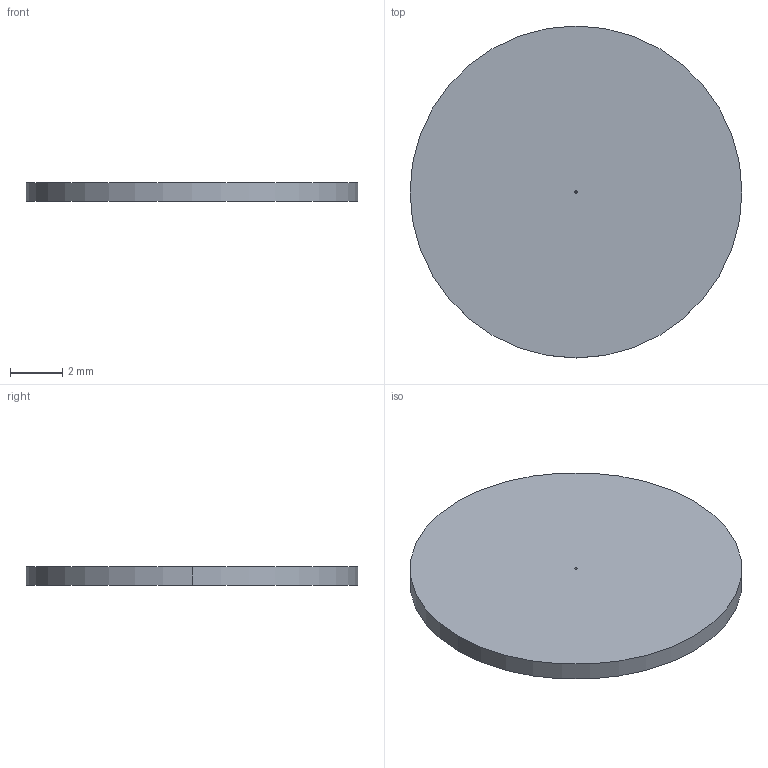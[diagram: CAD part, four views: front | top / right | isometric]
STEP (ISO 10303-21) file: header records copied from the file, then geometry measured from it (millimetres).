
FILE_DESCRIPTION((''),'2;1');
FILE_NAME('01MM','2022-04-24T',('Administrator'),(''),'CREO PARAMETRIC BY PTC INC, 2015290','CREO PARAMETRIC BY PTC INC, 2015290','');
FILE_SCHEMA(('CONFIG_CONTROL_DESIGN'));
Length unit declared in the file: millimetre
Products named in the file (1): 01MM
Bounding box: 12.7 x 12.7 x 0.7 mm (x, y, z)
Volume: 88.7 mm3; surface area: 281.5 mm2
Topology: 1 solids, 1 shells, 6 faces, 12 edges, 8 vertices
Faces by surface type: cylinder 4, plane 2
Entity records: 206 total; most frequent: DIRECTION 32, CARTESIAN_POINT 26, ORIENTED_EDGE 24, AXIS2_PLACEMENT_3D 14, EDGE_CURVE 12, VERTEX_POINT 8, EDGE_LOOP 8, CIRCLE 8
